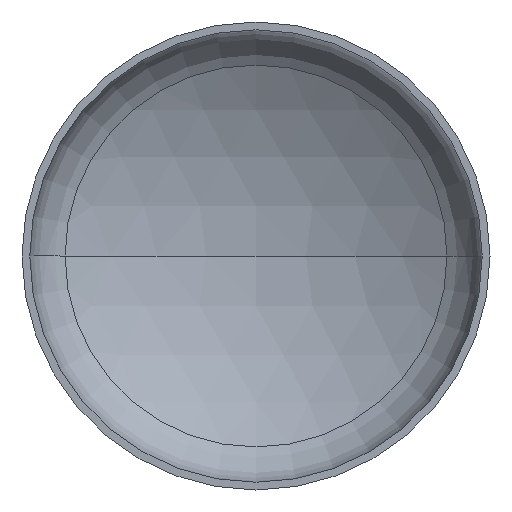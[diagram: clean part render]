
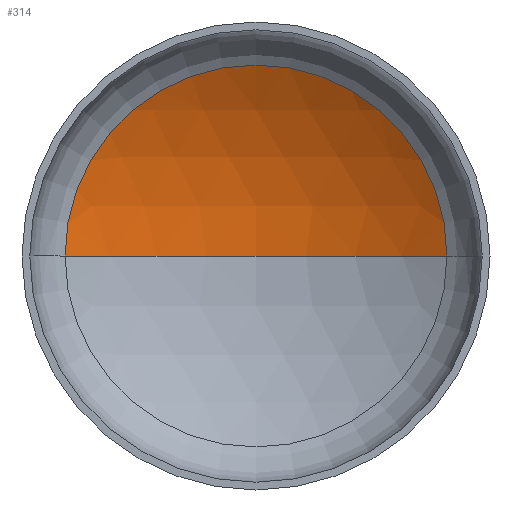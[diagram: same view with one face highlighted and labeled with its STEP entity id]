
A CAD part, front view. The second image highlights one B-rep face of the part: STEP entity #314.
In plain terms, the highlighted spherical face has radius 5200 mm.
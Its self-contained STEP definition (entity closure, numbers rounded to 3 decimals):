
#1 = DIRECTION ( 'NONE',  ( 0., 0., 1. ) ) ;
#3 = DIRECTION ( 'NONE',  ( 0., 0., -1. ) ) ;
#4 = CARTESIAN_POINT ( 'NONE',  ( 0., -3537.732, 0. ) ) ;
#7 = VERTEX_POINT ( 'NONE', #255 ) ;
#18 = AXIS2_PLACEMENT_3D ( 'NONE', #115, #1, #122 ) ;
#63 = CARTESIAN_POINT ( 'NONE',  ( 0., -3537.732, 0. ) ) ;
#69 = ORIENTED_EDGE ( 'NONE', *, *, #299, .T. ) ;
#74 = ORIENTED_EDGE ( 'NONE', *, *, #283, .T. ) ;
#82 = VERTEX_POINT ( 'NONE', #269 ) ;
#87 = CARTESIAN_POINT ( 'NONE',  ( 0., 935.174, 0. ) ) ;
#94 = DIRECTION ( 'NONE',  ( 0., -1., 0. ) ) ;
#96 = DIRECTION ( 'NONE',  ( -1., 0., 0. ) ) ;
#103 = EDGE_LOOP ( 'NONE', ( #138, #74, #69 ) ) ;
#104 = DIRECTION ( 'NONE',  ( 1., 0., 0. ) ) ;
#115 = CARTESIAN_POINT ( 'NONE',  ( 0., -3537.732, 0. ) ) ;
#122 = DIRECTION ( 'NONE',  ( 1., 0., 0. ) ) ;
#128 = VERTEX_POINT ( 'NONE', #184 ) ;
#138 = ORIENTED_EDGE ( 'NONE', *, *, #259, .F. ) ;
#139 = DIRECTION ( 'NONE',  ( -1., 0., 0. ) ) ;
#154 = AXIS2_PLACEMENT_3D ( 'NONE', #87, #94, #104 ) ;
#184 = CARTESIAN_POINT ( 'NONE',  ( 2652., 935.174, 0. ) ) ;
#197 = AXIS2_PLACEMENT_3D ( 'NONE', #63, #369, #96 ) ;
#255 = CARTESIAN_POINT ( 'NONE',  ( -2652., 935.174, 0. ) ) ;
#259 = EDGE_CURVE ( 'NONE', #82, #7, #286, .T. ) ;
#269 = CARTESIAN_POINT ( 'NONE',  ( 0., 1662.268, 0. ) ) ;
#272 = SPHERICAL_SURFACE ( 'NONE', #197, 5200. ) ;
#283 = EDGE_CURVE ( 'NONE', #82, #128, #354, .T. ) ;
#286 = CIRCLE ( 'NONE', #18, 5200. ) ;
#299 = EDGE_CURVE ( 'NONE', #128, #7, #411, .T. ) ;
#314 = ADVANCED_FACE ( 'NONE', ( #346 ), #272, .F. ) ;
#346 = FACE_OUTER_BOUND ( 'NONE', #103, .T. ) ;
#354 = CIRCLE ( 'NONE', #406, 5200. ) ;
#369 = DIRECTION ( 'NONE',  ( 0., 0., -1. ) ) ;
#406 = AXIS2_PLACEMENT_3D ( 'NONE', #4, #3, #139 ) ;
#411 = CIRCLE ( 'NONE', #154, 2652. ) ;
